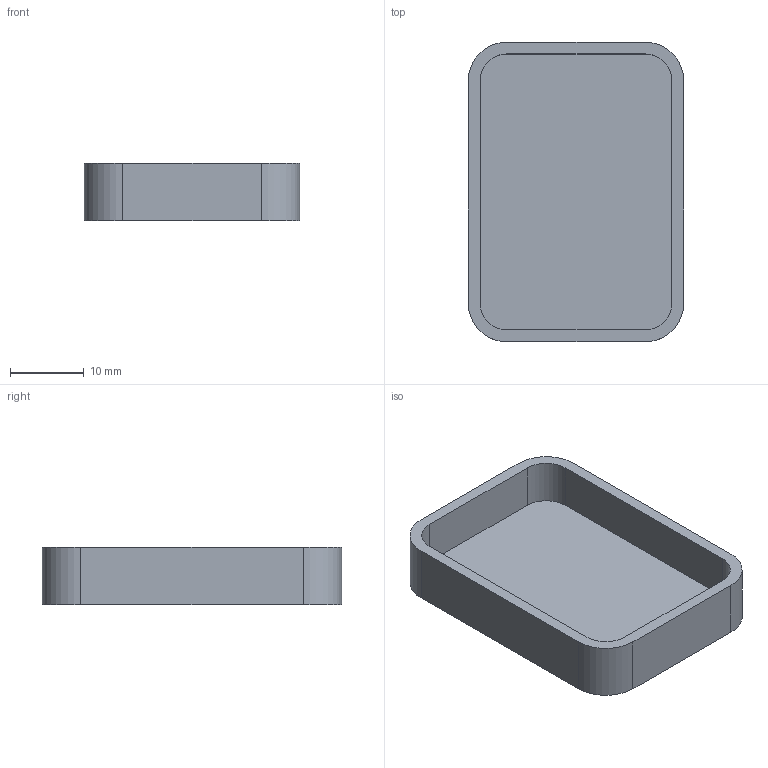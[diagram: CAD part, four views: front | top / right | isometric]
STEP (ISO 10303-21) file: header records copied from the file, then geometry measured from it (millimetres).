
FILE_DESCRIPTION(/* description */ ('STEP AP242 Edition 2','CAx-IF Rec.Pracs.---Representation and Presentation of Product Manufacturing Information (PMI)---4.0---2014-10-13','CAx-IF Rec.Pracs.---3D Tessellated Geometry---0.4---2014-09-14','2;1','CAx-IF Rec.Pracs.---User Defined Attributes---1.5---2016-08-15'),/* implementation_level */ '2;1');
FILE_NAME(/* name */ 'LevelSense - Top cover',/* time_stamp */ '2026-07-29T22:00:55Z',/* author */ (''),/* organization */ (''),/* preprocessor_version */ 'ST-DEVELOPER v20',/* originating_system */ 'ONSHAPE BY PTC INC, 1.218',/* authorisation */ ' ');
FILE_SCHEMA (('AP242_MANAGED_MODEL_BASED_3D_ENGINEERING_MIM_LF { 1 0 10303 442 3 1 4 }'));
Length unit declared in the file: centimetre
Products named in the file (1): Top cover
Bounding box: 29.23 x 40.66 x 7.8 mm (x, y, z)
Volume: 3112 mm3; surface area: 4099.3 mm2
Topology: 1 solids, 1 shells, 19 faces, 48 edges, 32 vertices
Faces by surface type: plane 11, cylinder 8
Entity records: 600 total; most frequent: DIRECTION 104, CARTESIAN_POINT 100, ORIENTED_EDGE 96, EDGE_CURVE 48, AXIS2_PLACEMENT_3D 36, VERTEX_POINT 32, LINE 32, VECTOR 32
